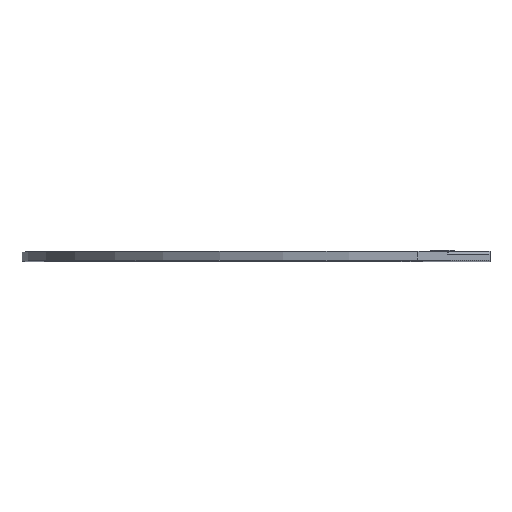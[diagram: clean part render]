
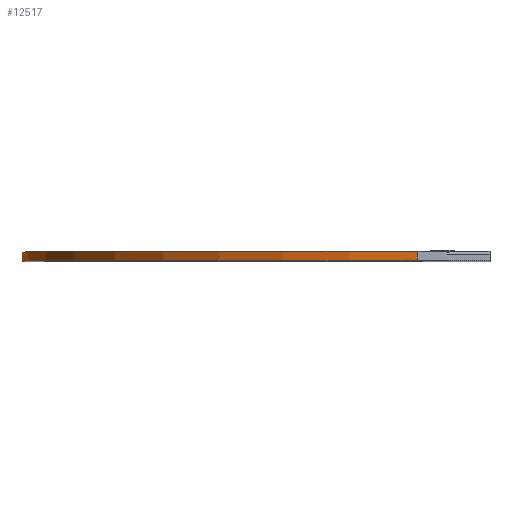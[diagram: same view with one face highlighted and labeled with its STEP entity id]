
A CAD part, top view. The second image highlights one B-rep face of the part: STEP entity #12517.
In plain terms, the highlighted cylindrical face has radius 69.85 mm (diameter 139.7 mm), a partial arc.
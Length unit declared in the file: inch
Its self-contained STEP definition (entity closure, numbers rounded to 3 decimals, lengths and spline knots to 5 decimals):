
#68=CYLINDRICAL_SURFACE('',#13347,2.75);
#1156=FACE_OUTER_BOUND('',#1815,.T.);
#1815=EDGE_LOOP('',(#11418,#11419,#11420,#11421));
#2040=CIRCLE('',#13112,2.75);
#2145=CIRCLE('',#13348,2.75);
#2964=LINE('',#18412,#4295);
#3474=LINE('',#21293,#4805);
#4295=VECTOR('',#15263,0.3937);
#4805=VECTOR('',#16305,0.3937);
#5535=VERTEX_POINT('',#18409);
#5536=VERTEX_POINT('',#18411);
#5581=VERTEX_POINT('',#18635);
#6029=VERTEX_POINT('',#21291);
#7030=EDGE_CURVE('',#5536,#5535,#2964,.T.);
#7188=EDGE_CURVE('',#5581,#5535,#2040,.T.);
#7859=EDGE_CURVE('',#6029,#5581,#3474,.T.);
#7862=EDGE_CURVE('',#6029,#5536,#2145,.T.);
#11418=ORIENTED_EDGE('',*,*,#7862,.T.);
#11419=ORIENTED_EDGE('',*,*,#7030,.T.);
#11420=ORIENTED_EDGE('',*,*,#7188,.F.);
#11421=ORIENTED_EDGE('',*,*,#7859,.F.);
#12517=ADVANCED_FACE('',(#1156),#68,.T.);
#13112=AXIS2_PLACEMENT_3D('',#18637,#15475,#15476);
#13347=AXIS2_PLACEMENT_3D('',#21297,#16310,#16311);
#13348=AXIS2_PLACEMENT_3D('',#21298,#16312,#16313);
#15263=DIRECTION('',(0.,1.,0.));
#15475=DIRECTION('center_axis',(0.,1.,0.));
#15476=DIRECTION('ref_axis',(-1.,0.,0.));
#16305=DIRECTION('',(0.,1.,0.));
#16310=DIRECTION('center_axis',(0.,1.,0.));
#16311=DIRECTION('ref_axis',(-1.,0.,0.));
#16312=DIRECTION('center_axis',(0.,1.,0.));
#16313=DIRECTION('ref_axis',(-1.,0.,0.));
#18409=CARTESIAN_POINT('',(-0.25,0.0625,6.));
#18411=CARTESIAN_POINT('',(-0.25,0.,6.));
#18412=CARTESIAN_POINT('',(-0.25,0.,6.));
#18635=CARTESIAN_POINT('',(-3.,0.0625,3.25));
#18637=CARTESIAN_POINT('Origin',(-0.25,0.0625,3.25));
#21291=CARTESIAN_POINT('',(-3.,0.,3.25));
#21293=CARTESIAN_POINT('',(-3.,0.,3.25));
#21297=CARTESIAN_POINT('Origin',(-0.25,0.,3.25));
#21298=CARTESIAN_POINT('Origin',(-0.25,0.,3.25));
